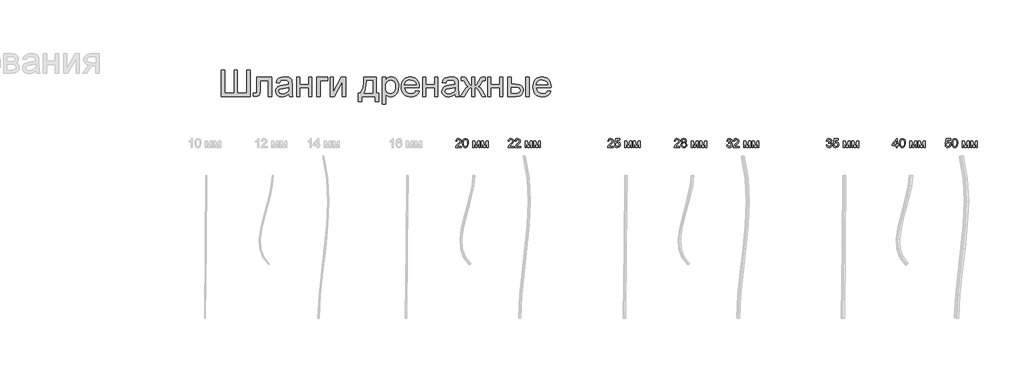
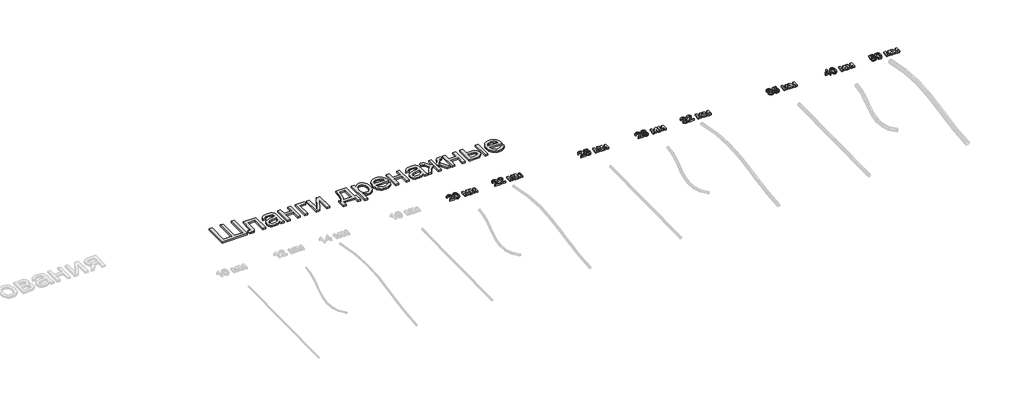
# One storey, part 10 of 21: 9 proxies.
"""IFC4 building model written with IfcOpenShell, lengths in millimetres."""

from ifc_helpers import new_model, si_unit, origin, origin_with_axes, place, context, project, spatial, polyline, outline, extrude, element, save

model = new_model("IFC4")

# Units and contexts
model_context = context("Model", 3, world=origin())
ifc_project = project(units=[si_unit("LENGTHUNIT", "METRE", prefix="MILLI")], contexts=[model_context])

# Site, building, storey
site = spatial("IfcSite", under=ifc_project)
building = spatial("IfcBuilding", under=site)
storey = spatial("IfcBuildingStorey", under=building, Name="Этаж 01", Elevation=0.0)

# Proxies
placement = place(None, origin())
element("IfcBuildingElementProxy", 1, Name="300 мм Arial", ObjectType="300 мм Arial", at=placement, inside=storey, context=model_context, shape_type="SweptSolid", body=[
    extrude(outline(polyline([(6778.2725477, -1543.323044), (6815.943664, -1543.323044), (6815.943664, -1807.0208581), (6924.2481234, -1807.0208581), (6924.2481234, -1543.323044), (6961.9192397, -1543.323044), (6961.9192397, -1807.0208581), (7070.2236991, -1807.0208581), (7070.2236991, -1543.323044), (7107.8948154, -1543.323044), (7107.8948154, -1844.6919744), (6778.2725477, -1844.6919744), (6778.2725477, -1543.323044)])), origin_with_axes(), (0.0, 0.0, 1.0), 20.0),
    extrude(outline(polyline([(7183.237048, -1623.3741661), (7352.7570714, -1623.3741661), (7352.7570714, -1844.4712452), (7315.085955, -1844.4712452), (7315.085955, -1661.0452824), (7220.9081643, -1661.0452824), (7220.9081643, -1766.627415), (7218.3697785, -1815.3349912), (7213.6149037, -1826.362254), (7204.4270509, -1835.8995947), (7190.4843233, -1842.4938795), (7171.4648241, -1844.6919744), (7140.8570421, -1842.778988), (7140.8570421, -1807.0208581), (7157.7060375, -1807.0208581), (7174.7389739, -1804.7032015), (7181.5447908, -1797.3455616), (7183.237048, -1764.4936995), (7183.237048, -1623.3741661)])), origin_with_axes(), (0.0, 0.0, 1.0), 20.0),
    extrude(outline(polyline([(7550.530432, -1816.4386372), (7532.5318053, -1831.8712869), (7513.9997498, -1841.9696477), (7494.5112011, -1847.5430599), (7473.643095, -1849.400864), (7442.1615932, -1844.9310977), (7418.9390423, -1831.521799), (7404.6192356, -1811.1595306), (7399.8459667, -1785.8308552), (7401.6485885, -1770.2142645), (7407.0564538, -1756.0324136), (7415.3981781, -1743.8923077), (7426.0023766, -1734.4009523), (7452.3795156, -1722.0401172), (7484.9738604, -1716.3747345), (7523.4911053, -1710.4150462), (7550.3097028, -1703.4252883), (7550.530432, -1695.0375788), (7547.9368639, -1678.2253716), (7540.1561597, -1667.2256999), (7522.7553413, -1659.0587196), (7498.5119178, -1656.3363929), (7476.0711161, -1658.1482117), (7460.3993431, -1663.5836682), (7449.7123712, -1673.6360437), (7442.2259726, -1689.2986197), (7404.5548563, -1684.5897301), (7411.0939587, -1663.9883384), (7420.8520287, -1647.8015306), (7434.739574, -1635.4223015), (7453.6671026, -1626.2436457), (7476.8160772, -1620.5598689), (7503.3679602, -1618.6652766), (7528.8345913, -1620.3391397), (7549.0221158, -1625.3607289), (7564.2432333, -1632.9115068), (7574.8106436, -1642.1729361), (7581.8187957, -1653.6232632), (7586.3621383, -1667.7407347), (7588.2015483, -1700.7029615), (7588.2015483, -1747.5711277), (7590.1145346, -1813.0173346), (7597.6193273, -1844.6919744), (7559.948211, -1844.6919744), (7550.530432, -1816.4386372)]), holes=[polyline([(7550.530432, -1741.0964046), (7489.7563264, -1752.6478992), (7457.3459226, -1758.7547403), (7442.667431, -1768.6875542), (7437.517083, -1783.1821048), (7440.3221833, -1794.3841116), (7448.7374839, -1803.5627674), (7462.579044, -1809.6880026), (7481.6629225, -1811.7297476), (7501.8964322, -1809.4764704), (7519.7754972, -1802.7166388), (7534.2700478, -1792.7562337), (7544.3500144, -1780.9012365), (7548.8197807, -1768.6875542), (7550.3097028, -1751.7649824), (7550.530432, -1741.0964046)])]), origin_with_axes(), (0.0, 0.0, 1.0), 20.0),
    extrude(outline(polyline([(7639.9993332, -1623.3741661), (7677.6704495, -1623.3741661), (7677.6704495, -1708.1341778), (7776.5571298, -1708.1341778), (7776.5571298, -1623.3741661), (7814.2282461, -1623.3741661), (7814.2282461, -1844.6919744), (7776.5571298, -1844.6919744), (7776.5571298, -1745.8052941), (7677.6704495, -1745.8052941), (7677.6704495, -1844.6919744), (7639.9993332, -1844.6919744), (7639.9993332, -1623.3741661)])), origin_with_axes(), (0.0, 0.0, 1.0), 20.0),
    extrude(outline(polyline([(7870.7349206, -1623.3741661), (7993.1660486, -1623.3741661), (7993.1660486, -1661.0452824), (7908.4060369, -1661.0452824), (7908.4060369, -1844.6919744), (7870.7349206, -1844.6919744), (7870.7349206, -1623.3741661)])), origin_with_axes(), (0.0, 0.0, 1.0), 20.0),
    extrude(outline(polyline([(8021.4193858, -1623.3741661), (8059.0905021, -1623.3741661), (8059.0905021, -1792.1584255), (8151.6496121, -1623.3741661), (8200.3571882, -1623.3741661), (8200.3571882, -1844.6919744), (8162.6860719, -1844.6919744), (8162.6860719, -1676.9377846), (8070.7155731, -1844.6919744), (8021.4193858, -1844.6919744), (8021.4193858, -1623.3741661)])), origin_with_axes(), (0.0, 0.0, 1.0), 20.0),
    extrude(outline(polyline([(8407.5483279, -1623.3741661), (8548.8150141, -1623.3741661), (8548.8150141, -1807.0208581), (8577.0683513, -1807.0208581), (8577.0683513, -1905.9075384), (8539.397235, -1905.9075384), (8539.397235, -1844.6919744), (8384.0038802, -1844.6919744), (8384.0038802, -1905.9075384), (8346.3327639, -1905.9075384), (8346.3327639, -1807.0208581), (8369.8772116, -1807.0208581), (8386.9929214, -1776.0911794), (8398.9766774, -1735.1735045), (8405.8284796, -1684.2678334), (8407.5483279, -1623.3741661)]), holes=[polyline([(8440.5105547, -1661.0452824), (8437.4203459, -1707.1684876), (8431.6813868, -1746.8721519), (8423.2936773, -1780.1562754), (8412.2572175, -1807.0208581), (8511.1438978, -1807.0208581), (8511.1438978, -1661.0452824), (8440.5105547, -1661.0452824)])]), origin_with_axes(), (0.0, 0.0, 1.0), 20.0),
    extrude(outline(polyline([(8619.4483571, -1929.4519861), (8619.4483571, -1623.3741661), (8657.1194735, -1623.3741661), (8657.1194735, -1660.3095184), (8669.4067321, -1642.0901626), (8683.1655187, -1629.076337), (8699.2051737, -1621.2680417), (8718.3350375, -1618.6652766), (8743.8108656, -1622.3073083), (8766.0861204, -1633.2334036), (8784.2227028, -1650.7813748), (8797.2825136, -1674.2890342), (8805.1735824, -1702.0457308), (8807.8039387, -1732.3408131), (8804.8332916, -1764.5580788), (8795.9213502, -1793.3724361), (8781.3532232, -1817.321554), (8761.4140191, -1834.9431015), (8738.1914681, -1845.7864234), (8713.7733007, -1849.400864), (8696.4552558, -1846.9820398), (8680.9950149, -1839.7255675), (8667.7604602, -1828.7718811), (8657.1194735, -1815.2614148), (8657.1194735, -1929.4519861), (8619.4483571, -1929.4519861)]), holes=[polyline([(8657.1194735, -1735.7989038), (8661.1937666, -1769.570471), (8673.4166458, -1793.1884951), (8691.4520607, -1807.0944345), (8712.9639603, -1811.7297476), (8734.8253479, -1806.9288876), (8753.3206152, -1792.5263075), (8765.9297706, -1768.0437607), (8770.1328224, -1733.0030007), (8766.0309381, -1699.4153745), (8753.7252854, -1675.4662566), (8735.7174617, -1661.1188588), (8714.5090647, -1656.3363929), (8693.2178942, -1661.4223615), (8674.5202918, -1676.6802672), (8661.469678, -1701.6318635), (8657.1194735, -1735.7989038)])]), origin_with_axes(), (0.0, 0.0, 1.0), 20.0),
    extrude(outline(polyline([(9005.1358409, -1778.7675209), (9042.0711932, -1783.4764104), (9028.763062, -1811.3066834), (9007.5270739, -1832.1104102), (8978.8414753, -1845.0782505), (8943.1845129, -1849.400864), (8919.8102106, -1847.5361621), (8898.9834912, -1841.9420565), (8880.7043545, -1832.6185472), (8864.9728007, -1819.5656341), (8852.3222586, -1803.1466008), (8843.2861571, -1783.7247308), (8837.8644962, -1761.3000239), (8836.0572759, -1735.8724802), (8837.8828903, -1709.5827132), (8843.3597335, -1686.410746), (8852.4878055, -1666.3565787), (8865.2671063, -1649.4202114), (8880.9572734, -1635.9649274), (8898.8179443, -1626.3540103), (8918.8491189, -1620.58746), (8941.0507973, -1618.6652766), (8962.5374051, -1620.5828615), (8981.9684722, -1626.3356162), (8999.3439987, -1635.9235407), (9014.6639846, -1649.346635), (9027.1696731, -1666.2462141), (9036.1023078, -1686.2635932), (9041.4618887, -1709.3987722), (9043.2484156, -1735.651751), (9043.0276864, -1745.8052941), (8873.7283922, -1745.8052941), (8880.2491006, -1774.003449), (8895.3966417, -1794.7335995), (8917.2580293, -1807.4807106), (8943.9202769, -1811.7297476), (8963.9698456, -1809.761579), (8980.8556292, -1803.8570729), (8994.5776276, -1793.6483476), (9005.1358409, -1778.7675209)]), holes=[polyline([(8873.7283922, -1708.1341778), (9005.5772993, -1708.1341778), (9000.4821337, -1688.2317619), (8990.4941375, -1673.9947287), (8968.5315824, -1660.7509768), (8940.9036445, -1656.3363929), (8915.5105898, -1659.858863), (8894.5137249, -1670.4262733), (8879.9180068, -1686.8981896), (8873.7283922, -1708.1341778)])]), origin_with_axes(), (0.0, 0.0, 1.0), 20.0),
    extrude(outline(polyline([(9080.9195319, -1623.3741661), (9118.5906482, -1623.3741661), (9118.5906482, -1708.1341778), (9217.4773285, -1708.1341778), (9217.4773285, -1623.3741661), (9255.1484448, -1623.3741661), (9255.1484448, -1844.6919744), (9217.4773285, -1844.6919744), (9217.4773285, -1745.8052941), (9118.5906482, -1745.8052941), (9118.5906482, -1844.6919744), (9080.9195319, -1844.6919744), (9080.9195319, -1623.3741661)])), origin_with_axes(), (0.0, 0.0, 1.0), 20.0),
    extrude(outline(polyline([(9452.9218054, -1816.4386372), (9434.9231788, -1831.8712869), (9416.3911233, -1841.9696477), (9396.9025746, -1847.5430599), (9376.0344684, -1849.400864), (9344.5529667, -1844.9310977), (9321.3304157, -1831.521799), (9307.0106091, -1811.1595306), (9302.2373402, -1785.8308552), (9304.039962, -1770.2142645), (9309.4478273, -1756.0324136), (9317.7895515, -1743.8923077), (9328.3937501, -1734.4009523), (9354.7708891, -1722.0401172), (9387.3652339, -1716.3747345), (9425.8824788, -1710.4150462), (9452.7010762, -1703.4252883), (9452.9218054, -1695.0375788), (9450.3282374, -1678.2253716), (9442.5475332, -1667.2256999), (9425.1467148, -1659.0587196), (9400.9032913, -1656.3363929), (9378.4624896, -1658.1482117), (9362.7907166, -1663.5836682), (9352.1037446, -1673.6360437), (9344.617346, -1689.2986197), (9306.9462297, -1684.5897301), (9313.4853322, -1663.9883384), (9323.2434021, -1647.8015306), (9337.1309474, -1635.4223015), (9356.0584761, -1626.2436457), (9379.2074506, -1620.5598689), (9405.7593336, -1618.6652766), (9431.2259648, -1620.3391397), (9451.4134892, -1625.3607289), (9466.6346068, -1632.9115068), (9477.2020171, -1642.1729361), (9484.2101691, -1653.6232632), (9488.7535118, -1667.7407347), (9490.5929217, -1700.7029615), (9490.5929217, -1747.5711277), (9492.5059081, -1813.0173346), (9500.0107008, -1844.6919744), (9462.3395845, -1844.6919744), (9452.9218054, -1816.4386372)]), holes=[polyline([(9452.9218054, -1741.0964046), (9392.1476998, -1752.6478992), (9359.737296, -1758.7547403), (9345.0588044, -1768.6875542), (9339.9084565, -1783.1821048), (9342.7135567, -1794.3841116), (9351.1288574, -1803.5627674), (9364.9704174, -1809.6880026), (9384.0542959, -1811.7297476), (9404.2878057, -1809.4764704), (9422.1668706, -1802.7166388), (9436.6614212, -1792.7562337), (9446.7413879, -1780.9012365), (9451.2111541, -1768.6875542), (9452.7010762, -1751.7649824), (9452.9218054, -1741.0964046)])]), origin_with_axes(), (0.0, 0.0, 1.0), 20.0),
    extrude(outline(polyline([(9678.9485033, -1623.3741661), (9678.9485033, -1717.5519569), (9692.2382403, -1715.6113794), (9700.9110584, -1709.7896468), (9721.6963911, -1669.5065683), (9734.6642314, -1644.3986221), (9746.4916376, -1630.8789588), (9760.8574295, -1625.2503643), (9781.7347327, -1623.3741661), (9796.6707417, -1623.3741661), (9796.6707417, -1661.2660116), (9786.2964695, -1661.0452824), (9766.8723001, -1664.9448316), (9753.4078191, -1689.3721961), (9737.7728343, -1716.1540053), (9715.4423972, -1729.7656391), (9727.8354219, -1735.0677384), (9740.0720968, -1744.4257366), (9764.0763969, -1775.3094301), (9806.0885208, -1844.6919744), (9762.8991746, -1844.6919744), (9721.5492383, -1776.2659233), (9710.246064, -1758.3040849), (9700.4696, -1747.8286451), (9690.5827714, -1742.7794647), (9678.9485033, -1741.0964046), (9678.9485033, -1844.6919744), (9641.277387, -1844.6919744), (9641.277387, -1741.0964046), (9629.7350894, -1742.7426765), (9619.8298666, -1747.6814923), (9609.9798262, -1758.0833557), (9598.6030755, -1776.1187705), (9557.2531393, -1844.6919744), (9514.1373694, -1844.6919744), (9556.0023405, -1775.3094301), (9580.1905817, -1744.4257366), (9592.4916359, -1735.0677384), (9604.9306458, -1729.7656391), (9590.5464598, -1722.555152), (9581.2390453, -1714.7560537), (9560.9319592, -1676.1284442), (9550.9991453, -1663.3997272), (9534.7387611, -1660.8245532), (9523.5551485, -1661.0452824), (9523.5551485, -1623.3741661), (9529.2205312, -1623.3741661), (9562.2563344, -1625.7286109), (9579.3996354, -1635.7350012), (9598.6030755, -1669.5065683), (9619.167679, -1709.5321294), (9627.8404971, -1715.547), (9641.277387, -1717.5519569), (9641.277387, -1623.3741661), (9678.9485033, -1623.3741661)])), origin_with_axes(), (0.0, 0.0, 1.0), 20.0),
    extrude(outline(polyline([(9824.9240789, -1623.3741661), (9862.5951953, -1623.3741661), (9862.5951953, -1708.1341778), (9961.4818756, -1708.1341778), (9961.4818756, -1623.3741661), (9999.1529919, -1623.3741661), (9999.1529919, -1844.6919744), (9961.4818756, -1844.6919744), (9961.4818756, -1745.8052941), (9862.5951953, -1745.8052941), (9862.5951953, -1844.6919744), (9824.9240789, -1844.6919744), (9824.9240789, -1623.3741661)])), origin_with_axes(), (0.0, 0.0, 1.0), 20.0),
    extrude(outline(polyline([(10262.850806, -1623.3741661), (10300.5219223, -1623.3741661), (10300.5219223, -1844.6919744), (10262.850806, -1844.6919744), (10262.850806, -1623.3741661)])), origin_with_axes(), (0.0, 0.0, 1.0), 20.0),
    extrude(outline(polyline([(10055.6596663, -1623.3741661), (10093.3307826, -1623.3741661), (10093.3307826, -1703.4252883), (10139.9046432, -1703.4252883), (10180.1601305, -1708.1433749), (10196.3768287, -1714.0409831), (10209.9861633, -1722.2976346), (10220.7536094, -1732.6282209), (10228.4446424, -1744.7476334), (10233.0592622, -1758.6558721), (10234.5974688, -1774.3529369), (10229.4379238, -1801.3094901), (10213.9592888, -1824.0537945), (10202.0973938, -1833.0829982), (10187.1498884, -1839.5324294), (10147.9980471, -1844.6919744), (10055.6596663, -1844.6919744), (10055.6596663, -1623.3741661)]), holes=[polyline([(10093.3307826, -1807.0208581), (10132.0319685, -1807.0208581), (10162.0327452, -1805.0434924), (10181.9903435, -1799.1113952), (10193.1923502, -1788.9854433), (10196.9263525, -1774.4265133), (10194.1580405, -1762.1208606), (10185.8531044, -1751.2499476), (10168.0936011, -1743.6347903), (10136.9615873, -1741.0964046), (10093.3307826, -1741.0964046), (10093.3307826, -1807.0208581)])]), origin_with_axes(), (0.0, 0.0, 1.0), 20.0),
    extrude(outline(polyline([(10511.9804931, -1778.7675209), (10548.9158455, -1783.4764104), (10535.6077143, -1811.3066834), (10514.3717261, -1832.1104102), (10485.6861275, -1845.0782505), (10450.0291651, -1849.400864), (10426.6548629, -1847.5361621), (10405.8281434, -1841.9420565), (10387.5490068, -1832.6185472), (10371.817453, -1819.5656341), (10359.1669109, -1803.1466008), (10350.1308094, -1783.7247308), (10344.7091485, -1761.3000239), (10342.9019282, -1735.8724802), (10344.7275426, -1709.5827132), (10350.2043858, -1686.410746), (10359.3324578, -1666.3565787), (10372.1117586, -1649.4202114), (10387.8019257, -1635.9649274), (10405.6625965, -1626.3540103), (10425.6937712, -1620.58746), (10447.8954496, -1618.6652766), (10469.3820574, -1620.5828615), (10488.8131245, -1626.3356162), (10506.188651, -1635.9235407), (10521.5086368, -1649.346635), (10534.0143254, -1666.2462141), (10542.9469601, -1686.2635932), (10548.3065409, -1709.3987722), (10550.0930678, -1735.651751), (10549.8723386, -1745.8052941), (10380.5730445, -1745.8052941), (10387.0937528, -1774.003449), (10402.241294, -1794.7335995), (10424.1026815, -1807.4807106), (10450.7649291, -1811.7297476), (10470.8144979, -1809.761579), (10487.7002815, -1803.8570729), (10501.4222799, -1793.6483476), (10511.9804931, -1778.7675209)]), holes=[polyline([(10380.5730445, -1708.1341778), (10512.4219515, -1708.1341778), (10507.3267859, -1688.2317619), (10497.3387897, -1673.9947287), (10475.3762346, -1660.7509768), (10447.7482968, -1656.3363929), (10422.3552421, -1659.858863), (10401.3583772, -1670.4262733), (10386.762659, -1686.8981896), (10380.5730445, -1708.1341778)])]), origin_with_axes(), (0.0, 0.0, 1.0), 20.0),
])
element("IfcBuildingElementProxy", 2, Name="100 мм Arial", ObjectType="100 мм Arial", at=placement, inside=storey, context=model_context, shape_type="SweptSolid", body=[
    extrude(outline(polyline([(9524.6744804, -2415.6549304), (9524.6744804, -2428.2119691), (9458.7500269, -2428.2119691), (9460.0989275, -2419.5544795), (9467.7263476, -2406.2248886), (9483.4471715, -2391.6690243), (9505.1276837, -2370.7488015), (9510.5478118, -2356.524031), (9505.4342521, -2345.0093246), (9492.0801356, -2340.3126977), (9478.1619335, -2344.89896), (9472.8766955, -2357.5786261), (9460.3196567, -2356.0089962), (9463.3638802, -2343.862759), (9469.9459023, -2334.9906716), (9479.7223663, -2329.5644121), (9492.3499158, -2327.755659), (9505.0694357, -2329.7667472), (9514.8275057, -2335.8000119), (9521.0355143, -2344.8131208), (9523.1048506, -2355.7637415), (9520.8730331, -2367.6708555), (9513.4540796, -2379.9826396), (9495.46465, -2397.1872542), (9481.0191503, -2409.2660464), (9475.3537676, -2415.6549304), (9524.6744804, -2415.6549304)])), origin_with_axes(), (0.0, 0.0, 1.0), 20.0),
    extrude(outline(polyline([(9537.2315192, -2378.7931544), (9540.9226019, -2349.8898924), (9551.8854853, -2333.224838), (9570.1937459, -2327.755659), (9584.8599748, -2330.9930205), (9594.9889924, -2340.3249605), (9600.8751043, -2355.1873931), (9603.1559727, -2378.7931544), (9599.5016782, -2407.5737892), (9588.575583, -2424.2756318), (9580.3442233, -2428.4051072), (9570.1937459, -2429.781599), (9557.1461978, -2427.390366), (9547.2379094, -2420.2166671), (9539.7331167, -2403.2266503), (9537.2315192, -2378.7931544)]), holes=[polyline([(9549.7885579, -2378.768629), (9551.2600859, -2398.5208264), (9555.6746699, -2409.9527594), (9562.2474948, -2415.40661), (9570.1937459, -2417.2245602), (9578.139997, -2415.4004786), (9584.712822, -2409.928234), (9589.127406, -2398.4901696), (9590.5989339, -2378.768629), (9589.1764569, -2359.4609556), (9584.9090258, -2347.9401178), (9578.3484635, -2342.2195528), (9570.0465931, -2340.3126977), (9562.1861812, -2341.9926922), (9555.8708736, -2347.0326755), (9551.3091369, -2359.2708832), (9549.7885579, -2378.768629)])]), origin_with_axes(), (0.0, 0.0, 1.0), 20.0),
    extrude(outline(polyline([(9656.5233875, -2354.4393664), (9678.1303233, -2354.4393664), (9694.783115, -2413.4966893), (9712.7357563, -2354.4393664), (9733.4352499, -2354.4393664), (9733.4352499, -2428.2119691), (9720.8782112, -2428.2119691), (9720.8782112, -2368.8112896), (9702.8274679, -2428.2119691), (9686.3463546, -2428.2119691), (9669.0804262, -2365.9663355), (9669.0804262, -2428.2119691), (9656.5233875, -2428.2119691), (9656.5233875, -2354.4393664)])), origin_with_axes(), (0.0, 0.0, 1.0), 20.0),
    extrude(outline(polyline([(9752.2708081, -2354.4393664), (9773.8777439, -2354.4393664), (9790.5305356, -2413.4966893), (9808.483177, -2354.4393664), (9829.1826705, -2354.4393664), (9829.1826705, -2428.2119691), (9816.6256318, -2428.2119691), (9816.6256318, -2368.8112896), (9798.5748885, -2428.2119691), (9782.0937752, -2428.2119691), (9764.8278469, -2365.9663355), (9764.8278469, -2428.2119691), (9752.2708081, -2428.2119691), (9752.2708081, -2354.4393664)])), origin_with_axes(), (0.0, 0.0, 1.0), 20.0),
])
element("IfcBuildingElementProxy", 3, Name="100 мм Arial", ObjectType="100 мм Arial", at=placement, inside=storey, context=model_context, shape_type="SweptSolid", body=[
    extrude(outline(polyline([(10124.6744804, -2415.6549304), (10124.6744804, -2428.2119691), (10058.7500269, -2428.2119691), (10060.0989275, -2419.5544795), (10067.7263476, -2406.2248886), (10083.4471715, -2391.6690243), (10105.1276837, -2370.7488015), (10110.5478118, -2356.524031), (10105.4342521, -2345.0093246), (10092.0801356, -2340.3126977), (10078.1619335, -2344.89896), (10072.8766955, -2357.5786261), (10060.3196567, -2356.0089962), (10063.3638802, -2343.862759), (10069.9459023, -2334.9906716), (10079.7223663, -2329.5644121), (10092.3499158, -2327.755659), (10105.0694357, -2329.7667472), (10114.8275057, -2335.8000119), (10121.0355143, -2344.8131208), (10123.1048506, -2355.7637415), (10120.8730331, -2367.6708555), (10113.4540796, -2379.9826396), (10095.46465, -2397.1872542), (10081.0191503, -2409.2660464), (10075.3537676, -2415.6549304), (10124.6744804, -2415.6549304)])), origin_with_axes(), (0.0, 0.0, 1.0), 20.0),
    extrude(outline(polyline([(10201.5863429, -2415.6549304), (10201.5863429, -2428.2119691), (10135.6618893, -2428.2119691), (10137.01079, -2419.5544795), (10144.63821, -2406.2248886), (10160.3590339, -2391.6690243), (10182.0395462, -2370.7488015), (10187.4596743, -2356.524031), (10182.3461145, -2345.0093246), (10168.9919981, -2340.3126977), (10155.0737959, -2344.89896), (10149.7885579, -2357.5786261), (10137.2315192, -2356.0089962), (10140.2757427, -2343.862759), (10146.8577647, -2334.9906716), (10156.6342287, -2329.5644121), (10169.2617782, -2327.755659), (10181.9812982, -2329.7667472), (10191.7393681, -2335.8000119), (10197.9473768, -2344.8131208), (10200.016713, -2355.7637415), (10197.7848956, -2367.6708555), (10190.365942, -2379.9826396), (10172.3765124, -2397.1872542), (10157.9310128, -2409.2660464), (10152.26563, -2415.6549304), (10201.5863429, -2415.6549304)])), origin_with_axes(), (0.0, 0.0, 1.0), 20.0),
    extrude(outline(polyline([(10256.5233875, -2354.4393664), (10278.1303233, -2354.4393664), (10294.783115, -2413.4966893), (10312.7357563, -2354.4393664), (10333.4352499, -2354.4393664), (10333.4352499, -2428.2119691), (10320.8782112, -2428.2119691), (10320.8782112, -2368.8112896), (10302.8274679, -2428.2119691), (10286.3463546, -2428.2119691), (10269.0804262, -2365.9663355), (10269.0804262, -2428.2119691), (10256.5233875, -2428.2119691), (10256.5233875, -2354.4393664)])), origin_with_axes(), (0.0, 0.0, 1.0), 20.0),
    extrude(outline(polyline([(10352.2708081, -2354.4393664), (10373.8777439, -2354.4393664), (10390.5305356, -2413.4966893), (10408.483177, -2354.4393664), (10429.1826705, -2354.4393664), (10429.1826705, -2428.2119691), (10416.6256318, -2428.2119691), (10416.6256318, -2368.8112896), (10398.5748885, -2428.2119691), (10382.0937752, -2428.2119691), (10364.8278469, -2365.9663355), (10364.8278469, -2428.2119691), (10352.2708081, -2428.2119691), (10352.2708081, -2354.4393664)])), origin_with_axes(), (0.0, 0.0, 1.0), 20.0),
])
element("IfcBuildingElementProxy", 4, Name="100 мм Arial", ObjectType="100 мм Arial", at=placement, inside=storey, context=model_context, shape_type="SweptSolid", body=[
    extrude(outline(polyline([(11264.6744804, -2415.6549304), (11264.6744804, -2428.2119691), (11198.7500269, -2428.2119691), (11200.0989275, -2419.5544795), (11207.7263476, -2406.2248886), (11223.4471715, -2391.6690243), (11245.1276837, -2370.7488015), (11250.5478118, -2356.524031), (11245.4342521, -2345.0093246), (11232.0801356, -2340.3126977), (11218.1619335, -2344.89896), (11212.8766955, -2357.5786261), (11200.3196567, -2356.0089962), (11203.3638802, -2343.862759), (11209.9459023, -2334.9906716), (11219.7223663, -2329.5644121), (11232.3499158, -2327.755659), (11245.0694357, -2329.7667472), (11254.8275057, -2335.8000119), (11261.0355143, -2344.8131208), (11263.1048506, -2355.7637415), (11260.8730331, -2367.6708555), (11253.4540796, -2379.9826396), (11235.46465, -2397.1872542), (11221.0191503, -2409.2660464), (11215.3537676, -2415.6549304), (11264.6744804, -2415.6549304)])), origin_with_axes(), (0.0, 0.0, 1.0), 20.0),
    extrude(outline(polyline([(11277.2315192, -2401.5282617), (11289.7885579, -2399.9586319), (11296.1161283, -2412.8958154), (11309.2372528, -2417.2245602), (11318.2380989, -2415.7193097), (11324.9826021, -2411.2035582), (11329.194851, -2404.1984719), (11330.5989339, -2395.2252169), (11325.3382214, -2380.3137334), (11318.7316739, -2376.2118491), (11309.4334565, -2374.8445544), (11298.4092594, -2377.0273209), (11291.3581878, -2382.6927036), (11278.801149, -2381.1230737), (11289.7885579, -2329.3252888), (11338.4470832, -2329.3252888), (11338.4470832, -2341.8823276), (11299.942101, -2341.8823276), (11294.5710239, -2369.5470536), (11303.5412132, -2364.1024001), (11312.9405982, -2362.2875156), (11324.6729681, -2364.5377271), (11334.412644, -2371.2883617), (11340.9701405, -2381.5767949), (11343.1559727, -2394.440402), (11341.187804, -2406.9974407), (11335.283298, -2417.739595), (11323.977058, -2426.771098), (11309.1882018, -2429.781599), (11296.8549579, -2427.8471528), (11287.029443, -2422.0438143), (11280.2941368, -2413.0460339), (11277.2315192, -2401.5282617)])), origin_with_axes(), (0.0, 0.0, 1.0), 20.0),
    extrude(outline(polyline([(11396.5233875, -2354.4393664), (11418.1303233, -2354.4393664), (11434.783115, -2413.4966893), (11452.7357563, -2354.4393664), (11473.4352499, -2354.4393664), (11473.4352499, -2428.2119691), (11460.8782112, -2428.2119691), (11460.8782112, -2368.8112896), (11442.8274679, -2428.2119691), (11426.3463546, -2428.2119691), (11409.0804262, -2365.9663355), (11409.0804262, -2428.2119691), (11396.5233875, -2428.2119691), (11396.5233875, -2354.4393664)])), origin_with_axes(), (0.0, 0.0, 1.0), 20.0),
    extrude(outline(polyline([(11492.2708081, -2354.4393664), (11513.8777439, -2354.4393664), (11530.5305356, -2413.4966893), (11548.483177, -2354.4393664), (11569.1826705, -2354.4393664), (11569.1826705, -2428.2119691), (11556.6256318, -2428.2119691), (11556.6256318, -2368.8112896), (11538.5748885, -2428.2119691), (11522.0937752, -2428.2119691), (11504.8278469, -2365.9663355), (11504.8278469, -2428.2119691), (11492.2708081, -2428.2119691), (11492.2708081, -2354.4393664)])), origin_with_axes(), (0.0, 0.0, 1.0), 20.0),
])
element("IfcBuildingElementProxy", 5, Name="100 мм Arial", ObjectType="100 мм Arial", at=placement, inside=storey, context=model_context, shape_type="SweptSolid", body=[
    extrude(outline(polyline([(12024.6744804, -2415.6549304), (12024.6744804, -2428.2119691), (11958.7500269, -2428.2119691), (11960.0989275, -2419.5544795), (11967.7263476, -2406.2248886), (11983.4471715, -2391.6690243), (12005.1276837, -2370.7488015), (12010.5478118, -2356.524031), (12005.4342521, -2345.0093246), (11992.0801356, -2340.3126977), (11978.1619335, -2344.89896), (11972.8766955, -2357.5786261), (11960.3196567, -2356.0089962), (11963.3638802, -2343.862759), (11969.9459023, -2334.9906716), (11979.7223663, -2329.5644121), (11992.3499158, -2327.755659), (12005.0694357, -2329.7667472), (12014.8275057, -2335.8000119), (12021.0355143, -2344.8131208), (12023.1048506, -2355.7637415), (12020.8730331, -2367.6708555), (12013.4540796, -2379.9826396), (11995.46465, -2397.1872542), (11981.0191503, -2409.2660464), (11975.3537676, -2415.6549304), (12024.6744804, -2415.6549304)])), origin_with_axes(), (0.0, 0.0, 1.0), 20.0),
    extrude(outline(polyline([(12055.5275171, -2372.8825171), (12044.086387, -2365.0834188), (12040.3707789, -2352.9433129), (12042.3941298, -2343.126995), (12048.4641828, -2335.015197), (12057.9003559, -2329.5705435), (12070.0220677, -2327.755659), (12082.2173558, -2329.6134631), (12091.7761563, -2335.1868753), (12097.9565738, -2343.427432), (12100.016713, -2353.2866694), (12096.3501558, -2365.120207), (12085.2278568, -2372.8825171), (12098.5819732, -2382.7294918), (12103.1559727, -2398.9776132), (12100.8873671, -2410.982829), (12094.0815502, -2420.9033802), (12083.5723878, -2427.5620443), (12070.1937459, -2429.781599), (12056.8151041, -2427.5528472), (12046.3059417, -2420.866592), (12039.5001248, -2410.8510046), (12037.2315192, -2398.6342567), (12041.9894596, -2382.0059905), (12055.5275171, -2372.8825171)]), holes=[polyline([(12052.9278176, -2353.3111949), (12057.3791898, -2363.1704324), (12070.3408987, -2366.9964051), (12083.0450903, -2363.1949578), (12087.4596743, -2353.8752806), (12082.8979375, -2344.2245096), (12070.1937459, -2340.3126977), (12057.4527662, -2344.1386705), (12052.9278176, -2353.3111949)]), polyline([(12049.7885579, -2398.1927983), (12051.8854853, -2407.6473656), (12059.3044389, -2414.7229626), (12070.2918478, -2417.2245602), (12078.8389728, -2415.9093821), (12085.2523823, -2411.9638477), (12090.5989339, -2398.5852058), (12085.080704, -2384.9490465), (12078.5201418, -2380.9023446), (12069.8749149, -2379.5534439), (12061.4473515, -2380.8839505), (12055.0983214, -2384.8754701), (12049.7885579, -2398.1927983)])]), origin_with_axes(), (0.0, 0.0, 1.0), 20.0),
    extrude(outline(polyline([(12156.5233875, -2354.4393664), (12178.1303233, -2354.4393664), (12194.783115, -2413.4966893), (12212.7357563, -2354.4393664), (12233.4352499, -2354.4393664), (12233.4352499, -2428.2119691), (12220.8782112, -2428.2119691), (12220.8782112, -2368.8112896), (12202.8274679, -2428.2119691), (12186.3463546, -2428.2119691), (12169.0804262, -2365.9663355), (12169.0804262, -2428.2119691), (12156.5233875, -2428.2119691), (12156.5233875, -2354.4393664)])), origin_with_axes(), (0.0, 0.0, 1.0), 20.0),
    extrude(outline(polyline([(12252.2708081, -2354.4393664), (12273.8777439, -2354.4393664), (12290.5305356, -2413.4966893), (12308.483177, -2354.4393664), (12329.1826705, -2354.4393664), (12329.1826705, -2428.2119691), (12316.6256318, -2428.2119691), (12316.6256318, -2368.8112896), (12298.5748885, -2428.2119691), (12282.0937752, -2428.2119691), (12264.8278469, -2365.9663355), (12264.8278469, -2428.2119691), (12252.2708081, -2428.2119691), (12252.2708081, -2354.4393664)])), origin_with_axes(), (0.0, 0.0, 1.0), 20.0),
])
element("IfcBuildingElementProxy", 6, Name="100 мм Arial", ObjectType="100 мм Arial", at=placement, inside=storey, context=model_context, shape_type="SweptSolid", body=[
    extrude(outline(polyline([(12560.3196567, -2401.5282617), (12572.8766955, -2399.9586319), (12579.8051397, -2413.1778583), (12592.7668487, -2417.2245602), (12601.3752874, -2415.83274), (12608.0216888, -2411.6572793), (12613.6870715, -2397.8739673), (12608.0707397, -2384.8877328), (12593.7969183, -2379.7496476), (12584.9922759, -2381.1230737), (12586.3902274, -2368.566035), (12588.4013157, -2368.7131878), (12602.6506116, -2365.1079442), (12607.3962894, -2360.5339448), (12608.9781819, -2354.0224334), (12604.3919197, -2344.1999842), (12592.570645, -2340.3126977), (12580.6022174, -2344.2367724), (12574.4463253, -2356.0089962), (12561.8892866, -2354.4393664), (12565.5865006, -2343.1637832), (12572.165457, -2334.7454169), (12581.1663031, -2329.5030985), (12592.1291866, -2327.755659), (12607.273662, -2331.201487), (12617.8686635, -2340.6192661), (12621.5352207, -2353.2866694), (12618.0526045, -2364.8626896), (12607.7519086, -2373.1768227), (12621.4371188, -2381.7607359), (12626.2441103, -2398.0946965), (12623.8406146, -2410.3329042), (12616.6301274, -2420.5600236), (12605.7469518, -2427.4762051), (12592.3253903, -2429.781599), (12580.1852845, -2427.8134303), (12570.3015215, -2421.9089243), (12563.4282596, -2412.8774213), (12560.3196567, -2401.5282617)])), origin_with_axes(), (0.0, 0.0, 1.0), 20.0),
    extrude(outline(polyline([(12701.5863429, -2415.6549304), (12701.5863429, -2428.2119691), (12635.6618893, -2428.2119691), (12637.01079, -2419.5544795), (12644.63821, -2406.2248886), (12660.3590339, -2391.6690243), (12682.0395462, -2370.7488015), (12687.4596743, -2356.524031), (12682.3461145, -2345.0093246), (12668.9919981, -2340.3126977), (12655.0737959, -2344.89896), (12649.7885579, -2357.5786261), (12637.2315192, -2356.0089962), (12640.2757427, -2343.862759), (12646.8577647, -2334.9906716), (12656.6342287, -2329.5644121), (12669.2617782, -2327.755659), (12681.9812982, -2329.7667472), (12691.7393681, -2335.8000119), (12697.9473768, -2344.8131208), (12700.016713, -2355.7637415), (12697.7848956, -2367.6708555), (12690.365942, -2379.9826396), (12672.3765124, -2397.1872542), (12657.9310128, -2409.2660464), (12652.26563, -2415.6549304), (12701.5863429, -2415.6549304)])), origin_with_axes(), (0.0, 0.0, 1.0), 20.0),
    extrude(outline(polyline([(12756.5233875, -2354.4393664), (12778.1303233, -2354.4393664), (12794.783115, -2413.4966893), (12812.7357563, -2354.4393664), (12833.4352499, -2354.4393664), (12833.4352499, -2428.2119691), (12820.8782112, -2428.2119691), (12820.8782112, -2368.8112896), (12802.8274679, -2428.2119691), (12786.3463546, -2428.2119691), (12769.0804262, -2365.9663355), (12769.0804262, -2428.2119691), (12756.5233875, -2428.2119691), (12756.5233875, -2354.4393664)])), origin_with_axes(), (0.0, 0.0, 1.0), 20.0),
    extrude(outline(polyline([(12852.2708081, -2354.4393664), (12873.8777439, -2354.4393664), (12890.5305356, -2413.4966893), (12908.483177, -2354.4393664), (12929.1826705, -2354.4393664), (12929.1826705, -2428.2119691), (12916.6256318, -2428.2119691), (12916.6256318, -2368.8112896), (12898.5748885, -2428.2119691), (12882.0937752, -2428.2119691), (12864.8278469, -2365.9663355), (12864.8278469, -2428.2119691), (12852.2708081, -2428.2119691), (12852.2708081, -2354.4393664)])), origin_with_axes(), (0.0, 0.0, 1.0), 20.0),
])
element("IfcBuildingElementProxy", 7, Name="100 мм Arial", ObjectType="100 мм Arial", at=placement, inside=storey, context=model_context, shape_type="SweptSolid", body=[
    extrude(outline(polyline([(13700.3196567, -2401.5282617), (13712.8766955, -2399.9586319), (13719.8051397, -2413.1778583), (13732.7668487, -2417.2245602), (13741.3752874, -2415.83274), (13748.0216888, -2411.6572793), (13753.6870715, -2397.8739673), (13748.0707397, -2384.8877328), (13733.7969183, -2379.7496476), (13724.9922759, -2381.1230737), (13726.3902274, -2368.566035), (13728.4013157, -2368.7131878), (13742.6506116, -2365.1079442), (13747.3962894, -2360.5339448), (13748.9781819, -2354.0224334), (13744.3919197, -2344.1999842), (13732.570645, -2340.3126977), (13720.6022174, -2344.2367724), (13714.4463253, -2356.0089962), (13701.8892866, -2354.4393664), (13705.5865006, -2343.1637832), (13712.165457, -2334.7454169), (13721.1663031, -2329.5030985), (13732.1291866, -2327.755659), (13747.273662, -2331.201487), (13757.8686635, -2340.6192661), (13761.5352207, -2353.2866694), (13758.0526045, -2364.8626896), (13747.7519086, -2373.1768227), (13761.4371188, -2381.7607359), (13766.2441103, -2398.0946965), (13763.8406146, -2410.3329042), (13756.6301274, -2420.5600236), (13745.7469518, -2427.4762051), (13732.3253903, -2429.781599), (13720.1852845, -2427.8134303), (13710.3015215, -2421.9089243), (13703.4282596, -2412.8774213), (13700.3196567, -2401.5282617)])), origin_with_axes(), (0.0, 0.0, 1.0), 20.0),
    extrude(outline(polyline([(13777.2315192, -2401.5282617), (13789.7885579, -2399.9586319), (13796.1161283, -2412.8958154), (13809.2372528, -2417.2245602), (13818.2380989, -2415.7193097), (13824.9826021, -2411.2035582), (13829.194851, -2404.1984719), (13830.5989339, -2395.2252169), (13825.3382214, -2380.3137334), (13818.7316739, -2376.2118491), (13809.4334565, -2374.8445544), (13798.4092594, -2377.0273209), (13791.3581878, -2382.6927036), (13778.801149, -2381.1230737), (13789.7885579, -2329.3252888), (13838.4470832, -2329.3252888), (13838.4470832, -2341.8823276), (13799.942101, -2341.8823276), (13794.5710239, -2369.5470536), (13803.5412132, -2364.1024001), (13812.9405982, -2362.2875156), (13824.6729681, -2364.5377271), (13834.412644, -2371.2883617), (13840.9701405, -2381.5767949), (13843.1559727, -2394.440402), (13841.187804, -2406.9974407), (13835.283298, -2417.739595), (13823.977058, -2426.771098), (13809.1882018, -2429.781599), (13796.8549579, -2427.8471528), (13787.029443, -2422.0438143), (13780.2941368, -2413.0460339), (13777.2315192, -2401.5282617)])), origin_with_axes(), (0.0, 0.0, 1.0), 20.0),
    extrude(outline(polyline([(13896.5233875, -2354.4393664), (13918.1303233, -2354.4393664), (13934.783115, -2413.4966893), (13952.7357563, -2354.4393664), (13973.4352499, -2354.4393664), (13973.4352499, -2428.2119691), (13960.8782112, -2428.2119691), (13960.8782112, -2368.8112896), (13942.8274679, -2428.2119691), (13926.3463546, -2428.2119691), (13909.0804262, -2365.9663355), (13909.0804262, -2428.2119691), (13896.5233875, -2428.2119691), (13896.5233875, -2354.4393664)])), origin_with_axes(), (0.0, 0.0, 1.0), 20.0),
    extrude(outline(polyline([(13992.2708081, -2354.4393664), (14013.8777439, -2354.4393664), (14030.5305356, -2413.4966893), (14048.483177, -2354.4393664), (14069.1826705, -2354.4393664), (14069.1826705, -2428.2119691), (14056.6256318, -2428.2119691), (14056.6256318, -2368.8112896), (14038.5748885, -2428.2119691), (14022.0937752, -2428.2119691), (14004.8278469, -2365.9663355), (14004.8278469, -2428.2119691), (13992.2708081, -2428.2119691), (13992.2708081, -2354.4393664)])), origin_with_axes(), (0.0, 0.0, 1.0), 20.0),
])
element("IfcBuildingElementProxy", 8, Name="100 мм Arial", ObjectType="100 мм Arial", at=placement, inside=storey, context=model_context, shape_type="SweptSolid", body=[
    extrude(outline(polyline([(14501.1300327, -2428.2119691), (14501.1300327, -2404.6675214), (14455.6107672, -2404.6675214), (14455.6107672, -2392.1104827), (14504.2692924, -2329.3252888), (14513.6870715, -2329.3252888), (14513.6870715, -2392.1104827), (14526.2441103, -2392.1104827), (14526.2441103, -2404.6675214), (14513.6870715, -2404.6675214), (14513.6870715, -2428.2119691), (14501.1300327, -2428.2119691)]), holes=[polyline([(14501.1300327, -2392.1104827), (14501.1300327, -2353.3111949), (14471.061811, -2392.1104827), (14501.1300327, -2392.1104827)])]), origin_with_axes(), (0.0, 0.0, 1.0), 20.0),
    extrude(outline(polyline([(14537.2315192, -2378.7931544), (14540.9226019, -2349.8898924), (14551.8854853, -2333.224838), (14570.1937459, -2327.755659), (14584.8599748, -2330.9930205), (14594.9889924, -2340.3249605), (14600.8751043, -2355.1873931), (14603.1559727, -2378.7931544), (14599.5016782, -2407.5737892), (14588.575583, -2424.2756318), (14580.3442233, -2428.4051072), (14570.1937459, -2429.781599), (14557.1461978, -2427.390366), (14547.2379094, -2420.2166671), (14539.7331167, -2403.2266503), (14537.2315192, -2378.7931544)]), holes=[polyline([(14549.7885579, -2378.768629), (14551.2600859, -2398.5208264), (14555.6746699, -2409.9527594), (14562.2474948, -2415.40661), (14570.1937459, -2417.2245602), (14578.139997, -2415.4004786), (14584.712822, -2409.928234), (14589.127406, -2398.4901696), (14590.5989339, -2378.768629), (14589.1764569, -2359.4609556), (14584.9090258, -2347.9401178), (14578.3484635, -2342.2195528), (14570.0465931, -2340.3126977), (14562.1861812, -2341.9926922), (14555.8708736, -2347.0326755), (14551.3091369, -2359.2708832), (14549.7885579, -2378.768629)])]), origin_with_axes(), (0.0, 0.0, 1.0), 20.0),
    extrude(outline(polyline([(14656.5233875, -2354.4393664), (14678.1303233, -2354.4393664), (14694.783115, -2413.4966893), (14712.7357563, -2354.4393664), (14733.4352499, -2354.4393664), (14733.4352499, -2428.2119691), (14720.8782112, -2428.2119691), (14720.8782112, -2368.8112896), (14702.8274679, -2428.2119691), (14686.3463546, -2428.2119691), (14669.0804262, -2365.9663355), (14669.0804262, -2428.2119691), (14656.5233875, -2428.2119691), (14656.5233875, -2354.4393664)])), origin_with_axes(), (0.0, 0.0, 1.0), 20.0),
    extrude(outline(polyline([(14752.2708081, -2354.4393664), (14773.8777439, -2354.4393664), (14790.5305356, -2413.4966893), (14808.483177, -2354.4393664), (14829.1826705, -2354.4393664), (14829.1826705, -2428.2119691), (14816.6256318, -2428.2119691), (14816.6256318, -2368.8112896), (14798.5748885, -2428.2119691), (14782.0937752, -2428.2119691), (14764.8278469, -2365.9663355), (14764.8278469, -2428.2119691), (14752.2708081, -2428.2119691), (14752.2708081, -2354.4393664)])), origin_with_axes(), (0.0, 0.0, 1.0), 20.0),
])
element("IfcBuildingElementProxy", 9, Name="100 мм Arial", ObjectType="100 мм Arial", at=placement, inside=storey, context=model_context, shape_type="SweptSolid", body=[
    extrude(outline(polyline([(15060.3196567, -2401.5282617), (15072.8766955, -2399.9586319), (15079.2042658, -2412.8958154), (15092.3253903, -2417.2245602), (15101.3262364, -2415.7193097), (15108.0707397, -2411.2035582), (15112.2829885, -2404.1984719), (15113.6870715, -2395.2252169), (15108.426359, -2380.3137334), (15101.8198115, -2376.2118491), (15092.521594, -2374.8445544), (15081.4973969, -2377.0273209), (15074.4463253, -2382.6927036), (15061.8892866, -2381.1230737), (15072.8766955, -2329.3252888), (15121.5352207, -2329.3252888), (15121.5352207, -2341.8823276), (15083.0302386, -2341.8823276), (15077.6591614, -2369.5470536), (15086.6293507, -2364.1024001), (15096.0287357, -2362.2875156), (15107.7611057, -2364.5377271), (15117.5007815, -2371.2883617), (15124.0582781, -2381.5767949), (15126.2441103, -2394.440402), (15124.2759416, -2406.9974407), (15118.3714356, -2417.739595), (15107.0651956, -2426.771098), (15092.2763394, -2429.781599), (15079.9430955, -2427.8471528), (15070.1175805, -2422.0438143), (15063.3822743, -2413.0460339), (15060.3196567, -2401.5282617)])), origin_with_axes(), (0.0, 0.0, 1.0), 20.0),
    extrude(outline(polyline([(15137.2315192, -2378.7931544), (15140.9226019, -2349.8898924), (15151.8854853, -2333.224838), (15170.1937459, -2327.755659), (15184.8599748, -2330.9930205), (15194.9889924, -2340.3249605), (15200.8751043, -2355.1873931), (15203.1559727, -2378.7931544), (15199.5016782, -2407.5737892), (15188.575583, -2424.2756318), (15180.3442233, -2428.4051072), (15170.1937459, -2429.781599), (15157.1461978, -2427.390366), (15147.2379094, -2420.2166671), (15139.7331167, -2403.2266503), (15137.2315192, -2378.7931544)]), holes=[polyline([(15149.7885579, -2378.768629), (15151.2600859, -2398.5208264), (15155.6746699, -2409.9527594), (15162.2474948, -2415.40661), (15170.1937459, -2417.2245602), (15178.139997, -2415.4004786), (15184.712822, -2409.928234), (15189.127406, -2398.4901696), (15190.5989339, -2378.768629), (15189.1764569, -2359.4609556), (15184.9090258, -2347.9401178), (15178.3484635, -2342.2195528), (15170.0465931, -2340.3126977), (15162.1861812, -2341.9926922), (15155.8708736, -2347.0326755), (15151.3091369, -2359.2708832), (15149.7885579, -2378.768629)])]), origin_with_axes(), (0.0, 0.0, 1.0), 20.0),
    extrude(outline(polyline([(15256.5233875, -2354.4393664), (15278.1303233, -2354.4393664), (15294.783115, -2413.4966893), (15312.7357563, -2354.4393664), (15333.4352499, -2354.4393664), (15333.4352499, -2428.2119691), (15320.8782112, -2428.2119691), (15320.8782112, -2368.8112896), (15302.8274679, -2428.2119691), (15286.3463546, -2428.2119691), (15269.0804262, -2365.9663355), (15269.0804262, -2428.2119691), (15256.5233875, -2428.2119691), (15256.5233875, -2354.4393664)])), origin_with_axes(), (0.0, 0.0, 1.0), 20.0),
    extrude(outline(polyline([(15352.2708081, -2354.4393664), (15373.8777439, -2354.4393664), (15390.5305356, -2413.4966893), (15408.483177, -2354.4393664), (15429.1826705, -2354.4393664), (15429.1826705, -2428.2119691), (15416.6256318, -2428.2119691), (15416.6256318, -2368.8112896), (15398.5748885, -2428.2119691), (15382.0937752, -2428.2119691), (15364.8278469, -2365.9663355), (15364.8278469, -2428.2119691), (15352.2708081, -2428.2119691), (15352.2708081, -2354.4393664)])), origin_with_axes(), (0.0, 0.0, 1.0), 20.0),
])

save(model, "model.ifc")
